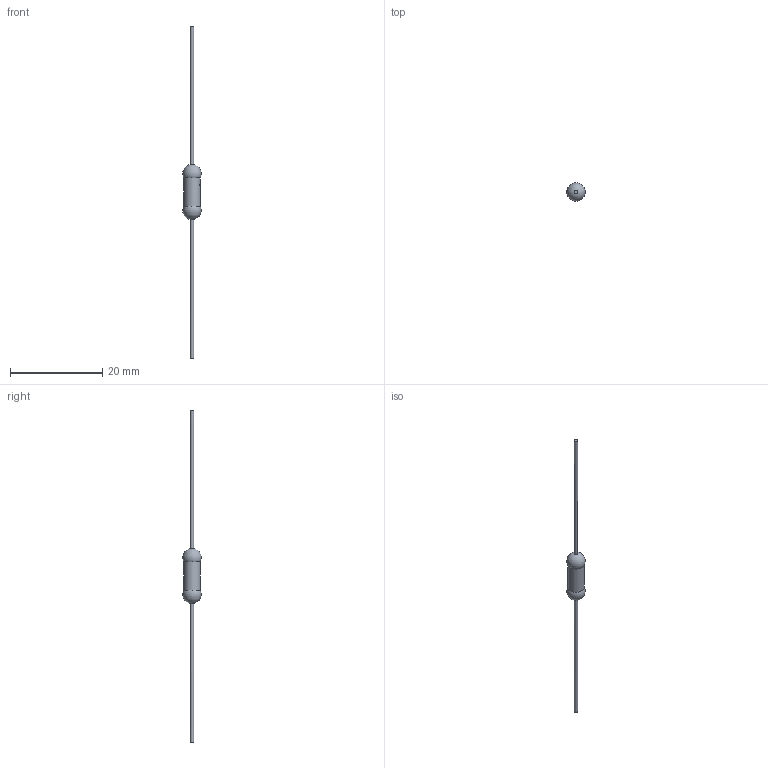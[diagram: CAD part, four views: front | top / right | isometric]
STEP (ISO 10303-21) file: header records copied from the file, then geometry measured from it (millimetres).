
FILE_DESCRIPTION(/* description */ (''),/* implementation_level */ '2;1');
FILE_NAME(/* name */ 'C:\Users\Hani\Desktop\work\TXF\TXF.stp',/* time_stamp */ '2021-10-15T14:06:19-07:00',/* author */ ('Hani'),/* organization */ (''),/* preprocessor_version */ 'ST-DEVELOPER v17',/* originating_system */ 'Autodesk Inventor 2019',/* authorisation */ '');
FILE_SCHEMA (('AUTOMOTIVE_DESIGN { 1 0 10303 214 3 1 1 }'));
Length unit declared in the file: inch
Products named in the file (1): TXF
Bounding box: 4 x 3.97 x 72 mm (x, y, z)
Volume: 140.1 mm3; surface area: 277.3 mm2
Topology: 1 solids, 1 shells, 144 faces, 414 edges, 276 vertices
Faces by surface type: bspline 67, plane 59, cylinder 16, sphere 2
Full cylindrical faces by diameter (mm): 0.711 x2, 3.556 x1
Entity records: 6221 total; most frequent: CARTESIAN_POINT 2776, ORIENTED_EDGE 828, DIRECTION 516, EDGE_CURVE 414, VERTEX_POINT 276, LINE 188, VECTOR 188, AXIS2_PLACEMENT_3D 164
